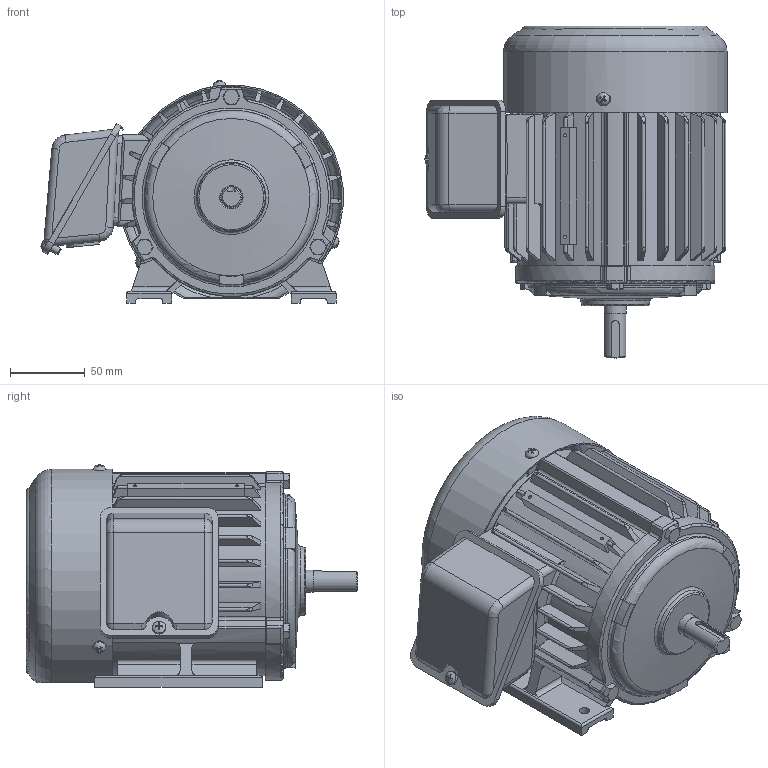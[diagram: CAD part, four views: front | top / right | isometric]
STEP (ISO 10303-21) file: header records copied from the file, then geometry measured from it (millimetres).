
FILE_DESCRIPTION(/* description */ ('Unknown'),/* implementation_level */ '2;1');
FILE_NAME(/* name */ '1-SMA-31974_외형도(120DIA)',/* time_stamp */ '2026-07-20T09:39:19+09:00',/* author */ ('Unknown'),/* organization */ ('Unknown'),/* preprocessor_version */ 'ST-DEVELOPER v16',/* originating_system */ 'DEX',/* authorisation */ $);
FILE_SCHEMA (('AUTOMOTIVE_DESIGN {1 0 10303 214 3 1 1}'));
Length unit declared in the file: millimetre
Products named in the file (17): 1-SMA-31974_¿ÜÇüµµ(120DIxÆÖÄ³(; 2-SMA-30831_FRAME(120DIA); 3-SMA-30832_¾Õºê¶óÄÏ(120DÅ¾|·Ï(; 4-SMA-30833_菴粽塭鰍(120D; SMA33038,33039_攪嘐割 ; 8-SMA-33038_T-BOX(鼻)(120,140DIA); 9-SMA-33039_T-BOX(ж)(120~140DIA); T-BOX 憶っ(120~160DIA; T-BOX ÀÓ½Ã ÄÉÀÌºí±×·£µå(120~ë“œ(120~160DIA); 褊濠 菅斬 該葬 獐お M5x; 6202ZZ; 5-SMA-30834_SHAFT(120DIA); 7-SMA-30281_FAN COVER(120DIA); 6-SMA-31241_FAN(120DIA~140DIA); 蹴辨 S1; 幫陝 M6x1x25; 菅斬 褊濠 M5x0.8x
Assembly tree (24 placements, depth 3):
  1-SMA-31974_¿ÜÇüµµ(120DIxÆÖÄ³(
    2-SMA-30831_FRAME(120DIA)
    3-SMA-30832_¾Õºê¶óÄÏ(120DÅ¾|·Ï(
    4-SMA-30833_菴粽塭鰍(120D
    SMA33038,33039_攪嘐割 
      8-SMA-33038_T-BOX(鼻)(120,140DIA)
      9-SMA-33039_T-BOX(ж)(120~140DIA)
      T-BOX 憶っ(120~160DIA
      T-BOX ÀÓ½Ã ÄÉÀÌºí±×·£µå(120~ë“œ(120~160DIA)
      褊濠 菅斬 該葬 獐お M5x
    6202ZZ  x2
    5-SMA-30834_SHAFT(120DIA)
    7-SMA-30281_FAN COVER(120DIA)
    6-SMA-31241_FAN(120DIA~140DIA)
    蹴辨 S1
    幫陝 M6x1x25  x6
    菅斬 褊濠 M5x0.8x  x3
Bounding box: 202.11 x 221.99 x 148.86 mm (x, y, z)
Volume: 726123.5 mm3; surface area: 427544.4 mm2
Topology: 46 solids, 46 shells, 1580 faces, 4077 edges, 2587 vertices
Faces by surface type: plane 539, cylinder 523, cone 265, torus 195, sphere 36, bspline 22
Full cylindrical faces by diameter (mm): 1.7 x2, 2.2 x2, 4.134 x3, 4.917 x12, 5 x7, 6 x17, 7 x4, 8 x6, 9 x1, 14 x1, 14.1 x1, 14.2 x1, 14.8 x2, 15 x4, 15.6 x2, 20.1 x1, 20.714 x4, 21.114 x4, 22 x2, 23 x1, 28.886 x4, 29 x3, 29.286 x4, 33 x2, 35 x4, 93.5 x1, 117 x1, 120 x1, 121 x1, 122 x4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
Entity records: 60875 total; most frequent: CARTESIAN_POINT 24015, DIRECTION 6932, ORIENTED_EDGE 6896, EDGE_CURVE 3448, AXIS2_PLACEMENT_3D 2792, VERTEX_POINT 2277, FACE_BOUND 1693, EDGE_LOOP 1677
